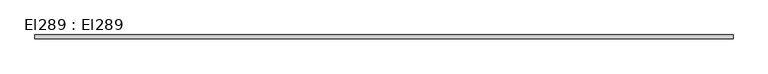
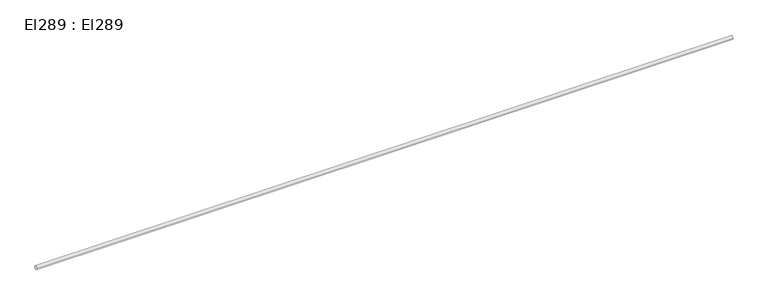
"""IFC4 building model written with IfcOpenShell, lengths in millimetres: cable carrier segment geometry, El289 : El289."""

from ifc_helpers import new_model, si_unit, point, frame, frame_2d, origin, place, context, project, spatial, circle_curve, trimmed, segment, composite_curve, outline, extrude, source, transform, mapped, element, save


def el289_el289_422ff92b(model_context):
    return source(origin(), model_context, "Body", "SweptSolid", [
        extrude(outline(composite_curve([segment(trimmed(circle_curve(frame_2d((14272.1, 2950.0)), 9.5), [point((14262.6, 2950.0))], [point((14281.6, 2950.0))], False, "CARTESIAN"), True, "CONTINUOUS"), segment(trimmed(circle_curve(frame_2d((14272.1, 2950.0)), 9.5), [point((14281.6, 2950.0))], [point((14262.6, 2950.0))], False, "CARTESIAN"), True, "CONTINUOUS")], self_intersect=False)), frame((6581.1, 0.0, 0.0), z_axis=(1.0, 0.0, 0.0), x_axis=(0.0, 1.0, 0.0)), (0.0, 0.0, 1.0), 3420.0),
    ])


if __name__ == "__main__":
    model = new_model("IFC4")
    model_context = context("Model", 3, world=origin())
    ifc_project = project(units=[si_unit("LENGTHUNIT", "METRE", prefix="MILLI")], contexts=[model_context])
    site = spatial("IfcSite", under=ifc_project)
    building = spatial("IfcBuilding", under=site)
    placement = place(None, origin())
    el289_el289_shape = el289_el289_422ff92b(model_context)
    element("IfcCableCarrierSegment", 1, ObjectType="El289 : El289", at=placement, inside=building, context=model_context, shape_type="MappedRepresentation", body=[
        mapped(el289_el289_shape, transform((0.0, 0.0, 0.0), x_axis=(1.0, 0.0, 0.0), y_axis=(0.0, 1.0, 0.0), z_axis=(0.0, 0.0, 1.0))),
    ])
    save(model, "model.ifc")
